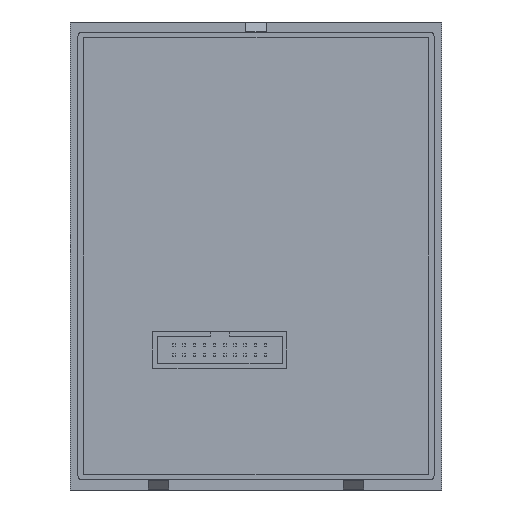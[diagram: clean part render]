
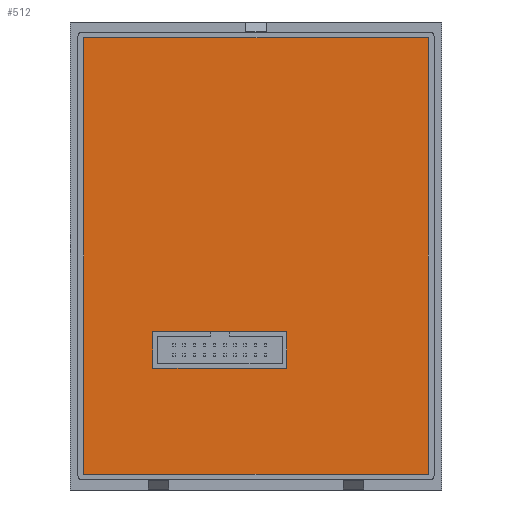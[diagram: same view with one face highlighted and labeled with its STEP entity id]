
A CAD part, left-side view. The second image highlights one B-rep face of the part: STEP entity #512.
In plain terms, the highlighted planar face has unit normal (-1, 0, 0).
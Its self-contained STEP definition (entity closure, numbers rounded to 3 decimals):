
#512=ADVANCED_FACE('',(#2178,#2180),#2182,.T.);
#2178=FACE_BOUND('',#2179,.T.);
#2179=EDGE_LOOP('',(#3559,#3560,#3561,#3562));
#2180=FACE_BOUND('',#2181,.T.);
#2181=EDGE_LOOP('',(#3563,#3564,#3565,#3566));
#2182=PLANE('',#2183);
#2183=AXIS2_PLACEMENT_3D('',#2184,#2185,#2186);
#2184=CARTESIAN_POINT('',(-9.,0.,0.));
#2185=DIRECTION('',(-1.,0.,0.));
#2186=DIRECTION('',(0.,-1.,0.));
#3559=ORIENTED_EDGE('',*,*,#4356,.T.);
#3560=ORIENTED_EDGE('',*,*,#4362,.T.);
#3561=ORIENTED_EDGE('',*,*,#4360,.T.);
#3562=ORIENTED_EDGE('',*,*,#4358,.T.);
#3563=ORIENTED_EDGE('',*,*,#4389,.F.);
#3564=ORIENTED_EDGE('',*,*,#4390,.F.);
#3565=ORIENTED_EDGE('',*,*,#4391,.F.);
#3566=ORIENTED_EDGE('',*,*,#4392,.F.);
#4356=EDGE_CURVE('',#4931,#4929,#4932,.T.);
#4358=EDGE_CURVE('',#4934,#4931,#4935,.T.);
#4360=EDGE_CURVE('',#4937,#4934,#4938,.T.);
#4362=EDGE_CURVE('',#4929,#4937,#4940,.T.);
#4389=EDGE_CURVE('',#4983,#4984,#4985,.T.);
#4390=EDGE_CURVE('',#4986,#4983,#4987,.T.);
#4391=EDGE_CURVE('',#4988,#4986,#4989,.T.);
#4392=EDGE_CURVE('',#4984,#4988,#4990,.T.);
#4929=VERTEX_POINT('',#6012);
#4931=VERTEX_POINT('',#6016);
#4932=LINE('',#6017,#6018);
#4934=VERTEX_POINT('',#6023);
#4935=LINE('',#6024,#6025);
#4937=VERTEX_POINT('',#6030);
#4938=LINE('',#6031,#6032);
#4940=LINE('',#6037,#6038);
#4983=VERTEX_POINT('',#6141);
#4984=VERTEX_POINT('',#6142);
#4985=LINE('',#6143,#6144);
#4986=VERTEX_POINT('',#6146);
#4987=LINE('',#6147,#6148);
#4988=VERTEX_POINT('',#6150);
#4989=LINE('',#6151,#6152);
#4990=LINE('',#6154,#6155);
#6012=CARTESIAN_POINT('',(-9.,42.35,53.6));
#6016=CARTESIAN_POINT('',(-9.,-42.35,53.6));
#6017=CARTESIAN_POINT('',(-9.,-42.35,53.6));
#6018=VECTOR('',#6019,1.);
#6019=DIRECTION('',(0.,1.,0.));
#6023=CARTESIAN_POINT('',(-9.,-42.35,-53.6));
#6024=CARTESIAN_POINT('',(-9.,-42.35,-53.6));
#6025=VECTOR('',#6026,1.);
#6026=DIRECTION('',(0.,0.,1.));
#6030=CARTESIAN_POINT('',(-9.,42.35,-53.6));
#6031=CARTESIAN_POINT('',(-9.,42.35,-53.6));
#6032=VECTOR('',#6033,1.);
#6033=DIRECTION('',(0.,-1.,0.));
#6037=CARTESIAN_POINT('',(-9.,42.35,53.6));
#6038=VECTOR('',#6039,1.);
#6039=DIRECTION('',(0.,0.,-1.));
#6141=CARTESIAN_POINT('',(-9.,-7.55,-18.6));
#6142=CARTESIAN_POINT('',(-9.,25.35,-18.6));
#6143=CARTESIAN_POINT('',(-9.,-7.55,-18.6));
#6144=VECTOR('',#6145,1.);
#6145=DIRECTION('',(0.,1.,0.));
#6146=CARTESIAN_POINT('',(-9.,-7.55,-27.6));
#6147=CARTESIAN_POINT('',(-9.,-7.55,-27.6));
#6148=VECTOR('',#6149,1.);
#6149=DIRECTION('',(0.,0.,1.));
#6150=CARTESIAN_POINT('',(-9.,25.35,-27.6));
#6151=CARTESIAN_POINT('',(-9.,25.35,-27.6));
#6152=VECTOR('',#6153,1.);
#6153=DIRECTION('',(0.,-1.,0.));
#6154=CARTESIAN_POINT('',(-9.,25.35,-18.6));
#6155=VECTOR('',#6156,1.);
#6156=DIRECTION('',(0.,0.,-1.));
